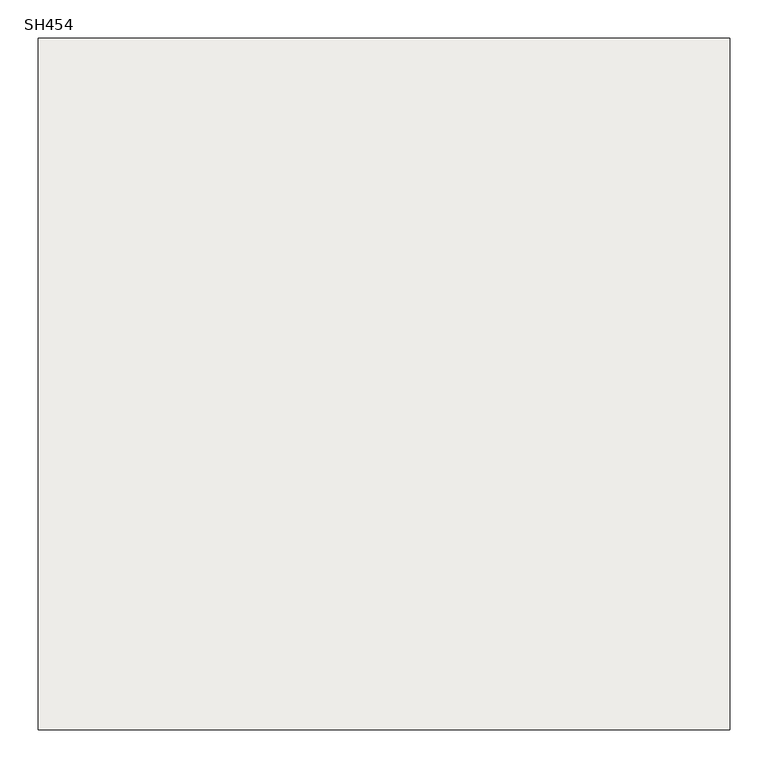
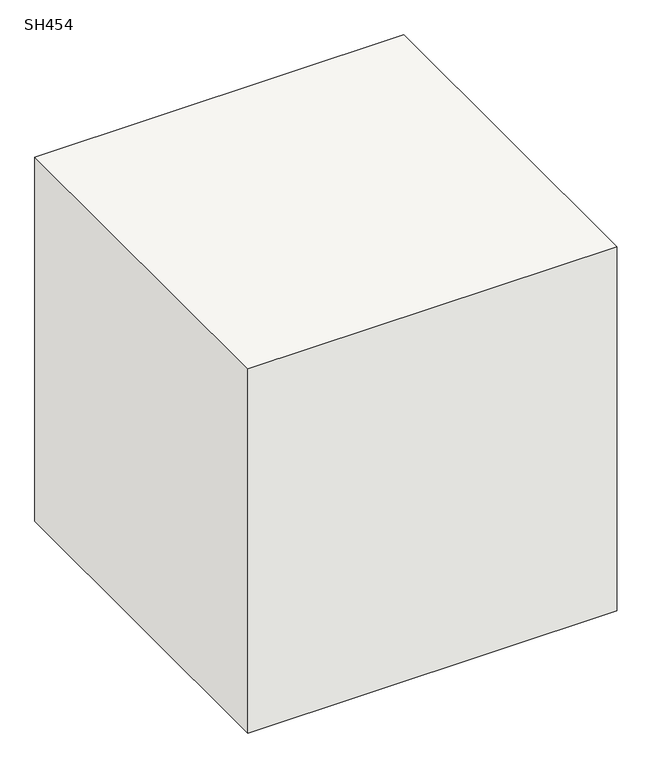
"""IFC4 building model written with IfcOpenShell, lengths in millimetres: slab geometry, 柱形_SH : SH454."""

from ifc_helpers import new_model, si_unit, frame, origin, place, context, project, spatial, polyline, outline, extrude, source, transform, mapped, element, save


def sh454_7828ca22(model_context):
    return source(origin(), model_context, "Body", "SweptSolid", [
        extrude(outline(polyline([(455.0, 455.0), (455.0, -455.0), (-455.0, -455.0), (-455.0, 455.0), (455.0, 455.0)])), frame((0.0, 0.0, -950.0), z_axis=(0.0, 0.0, 1.0), x_axis=(1.0, 0.0, 0.0)), (0.0, 0.0, 1.0), 950.0),
    ])


if __name__ == "__main__":
    model = new_model("IFC4")
    model_context = context("Model", 3, world=origin())
    ifc_project = project(units=[si_unit("LENGTHUNIT", "METRE", prefix="MILLI")], contexts=[model_context])
    site = spatial("IfcSite", under=ifc_project)
    building = spatial("IfcBuilding", under=site)
    placement = place(None, origin())
    sh454_shape = sh454_7828ca22(model_context)
    element("IfcSlab", 1, ObjectType="柱形_SH : SH454", at=placement, inside=building, context=model_context, shape_type="MappedRepresentation", body=[
        mapped(sh454_shape, transform((0.0, 0.0, 0.0), x_axis=(1.0, 0.0, 0.0), y_axis=(0.0, 1.0, 0.0), z_axis=(0.0, 0.0, 1.0))),
    ])
    save(model, "model.ifc")
